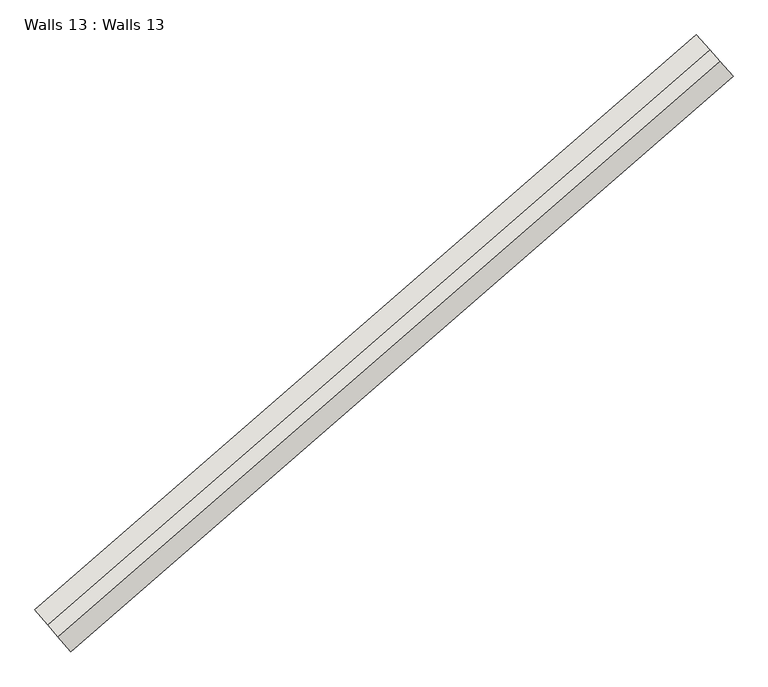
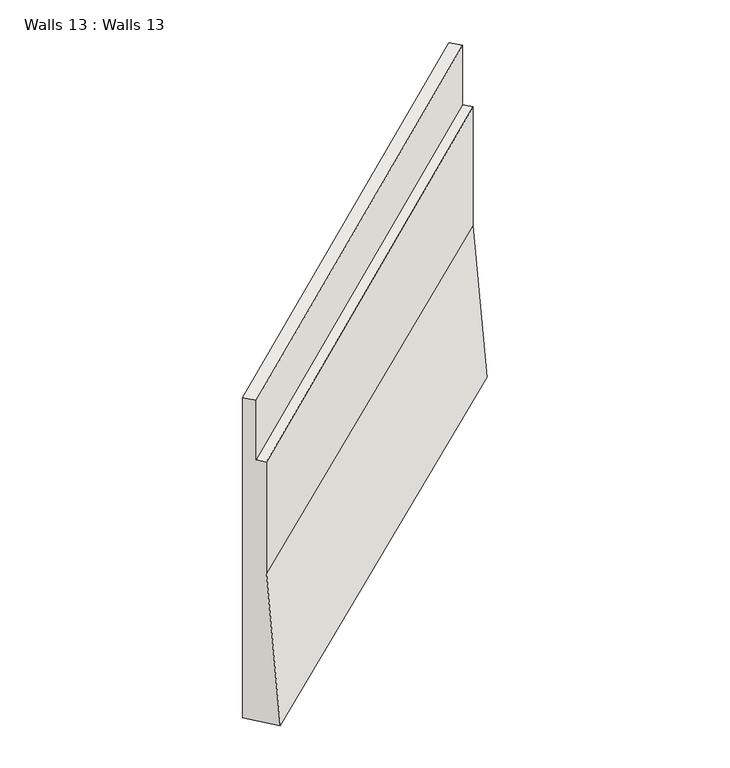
"""IFC4 building model written with IfcOpenShell, lengths in millimetres: wall geometry, Walls 13 : Walls 13."""

from ifc_helpers import new_model, si_unit, frame, origin, place, context, project, spatial, source, transform, mapped, element, save
from ifc_brep_helpers import plane_surface, spline_curve, spline_surface, advanced_brep


def walls_13_walls_13_f2d9147d(model_context):
    return source(origin(), model_context, "Body", "AdvancedBrep", [
        advanced_brep(
        [(-251989.7359779, -411749.6510878, 635200.0), (-252355.3261287, -411339.1918197, 635200.0), (-252355.3261287, -411339.1918197, 640690.0), (-252222.3842557, -411488.4497354, 640690.0), (-252222.3842557, -411488.4497354, 639690.0), (-252122.6778509, -411600.3931722, 639690.0), (-252122.6778509, -411600.3931722, 637700.0), (-258566.4830162, -417464.9275778, 635130.0), (-258695.8495109, -417312.4180898, 637630.0), (-258695.8495109, -417312.4180898, 639500.0), (-258792.8743818, -417198.0359739, 639500.0), (-258792.8743818, -417198.0359739, 640500.0), (-258922.2408764, -417045.526486, 640500.0), (-258922.2408764, -417045.526486, 635130.0)],
        [
            (0, 1),
            (1, 2),
            (2, 3),
            (3, 4),
            (4, 5),
            (5, 6),
            (6, 0),
            (7, 8),
            (8, 9),
            (9, 10),
            (10, 11),
            (11, 12),
            (12, 13),
            (13, 7),
            (13, 1, spline_curve(3, [(-258922.2408764, -417045.526486, 635130.0), (-256710.396439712, -415169.961391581, 635153.333333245), (-254521.211723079, -413267.664757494, 635176.666666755), (-252355.3261287, -411339.1918197, 635200.0)], [4, 4], [0.0, 28.565908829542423])),
            (0, 7, spline_curve(3, [(-251989.7359779, -411749.6510878, 635200.0), (-254158.861927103, -413681.143295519, 635176.666666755), (-256351.324380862, -415586.420842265, 635153.333333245), (-258566.4830162, -417464.9275778, 635130.0)], [4, 4], [0.0, 28.565908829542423])),
            (12, 2, spline_curve(3, [(-258922.2408764, -417045.526486, 640500.0), (-256710.39644053, -415169.961391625, 640563.333333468), (-254521.211723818, -413267.664758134, 640626.666666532), (-252355.3261287, -411339.1918197, 640690.0)], [4, 4], [0.0, 28.54637564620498])),
            (11, 3, spline_curve(3, [(-258792.8743818, -417198.0359739, 640500.0), (-256579.824782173, -415321.401191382, 640563.333333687), (-254389.448161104, -413418.020589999, 640626.666666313), (-252222.3842557, -411488.4497354, 640690.0)], [4, 4], [0.0, 28.55791933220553])),
            (10, 4, spline_curve(3, [(-258792.8743818, -417198.0359739, 639500.0), (-256579.824782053, -415321.401190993, 639563.333333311), (-254389.448161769, -413418.020589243, 639626.666666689), (-252222.3842557, -411488.4497354, 639690.0)], [4, 4], [0.0, 28.565843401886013])),
            (9, 5, spline_curve(3, [(-258695.8495109, -417312.4180898, 639500.0), (-256481.896038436, -415434.981041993, 639563.3333333), (-254290.625489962, -413530.787463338, 639626.6666667), (-252122.6778509, -411600.3931722, 639690.0)], [4, 4], [0.0, 28.571786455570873])),
            (8, 6, spline_curve(3, [(-258695.8495109, -417312.4180898, 637630.0), (-256481.896038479, -415434.981041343, 637653.333333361), (-254290.625489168, -413530.787463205, 637676.666666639), (-252122.6778509, -411600.3931722, 637700.0)], [4, 4], [0.0, 28.5741134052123])),
        ],
        [
            plane_surface(frame((-252198.6446355, -411515.1029346, 638408.5714286), z_axis=(0.7467427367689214, 0.6651129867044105, 0.0), x_axis=(-0.6651129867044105, 0.7467427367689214, 0.0))),
            plane_surface(frame((-258769.7732221, -417225.269811, 638270.0), z_axis=(-0.7625966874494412, -0.6468742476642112, 0.0), x_axis=(-0.6468742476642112, 0.7625966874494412, 0.0))),
            spline_surface(3, 3, [[(-258566.4830162, -417464.9275778, 635130.0), (-256351.324380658, -415586.420841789, 635153.333333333), (-254158.861927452, -413681.143295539, 635176.666666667), (-251989.7359779, -411749.6510878, 635200.0)], [(-258685.068969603, -417325.127213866, 635130.0), (-256471.015067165, -415447.601024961, 635153.333333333), (-254279.645192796, -413543.317116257, 635176.666666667), (-252111.599361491, -411612.831331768, 635200.0)], [(-258803.654922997, -417185.326849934, 635130.0), (-256590.705753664, -415308.781208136, 635153.333333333), (-254400.428458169, -413405.490936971, 635176.666666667), (-252233.462745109, -411476.011575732, 635200.0)], [(-258922.2408764, -417045.526486, 635130.0), (-256710.396440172, -415169.961391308, 635153.333333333), (-254521.211723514, -413267.66475769, 635176.666666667), (-252355.3261287, -411339.1918197, 635200.0)]], [4, 4], [4, 4], [0.0, 1.803856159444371], [0.0, 28.565908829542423]),
            spline_surface(3, 3, [[(-258922.2408764, -417045.526486, 635130.0), (-256710.396440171, -415169.961391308, 635153.333333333), (-254521.211723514, -413267.66475769, 635176.666666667), (-252355.3261287, -411339.1918197, 635200.0)], [(-258922.2408764, -417045.526486, 636920.0), (-256710.396440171, -415169.961391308, 636956.666666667), (-254521.211723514, -413267.66475769, 636993.333333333), (-252355.3261287, -411339.1918197, 637030.0)], [(-258922.2408764, -417045.526486, 638710.0), (-256710.396440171, -415169.961391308, 638760.0), (-254521.211723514, -413267.66475769, 638810.0), (-252355.3261287, -411339.1918197, 638860.0)], [(-258922.2408764, -417045.526486, 640500.0), (-256710.396440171, -415169.961391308, 640563.333333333), (-254521.211723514, -413267.66475769, 640626.666666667), (-252355.3261287, -411339.1918197, 640690.0)]], [4, 4], [4, 4], [0.0, 17.814960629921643], [0.0, 28.54637564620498]),
            spline_surface(3, 3, [[(-258922.2408764, -417045.526486, 640500.0), (-256710.396440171, -415169.961391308, 640563.333333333), (-254521.211723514, -413267.66475769, 640626.666666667), (-252355.3261287, -411339.1918197, 640690.0)], [(-258879.118711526, -417096.362981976, 640500.0), (-256666.872554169, -415220.4413247, 640563.333333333), (-254477.290536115, -413317.783368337, 640626.666666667), (-252311.012171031, -411388.944458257, 640690.0)], [(-258835.996546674, -417147.199477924, 640500.0), (-256623.348668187, -415270.921258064, 640563.333333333), (-254433.369348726, -413367.901979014, 640626.666666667), (-252266.698213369, -411438.697096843, 640690.0)], [(-258792.8743818, -417198.0359739, 640500.0), (-256579.824782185, -415321.401191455, 640563.333333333), (-254389.448161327, -413418.020589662, 640626.666666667), (-252222.3842557, -411488.4497354, 640690.0)]], [4, 4], [4, 4], [0.0, 0.6559476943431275], [0.0, 28.55791933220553]),
            spline_surface(3, 3, [[(-258792.8743818, -417198.0359739, 640500.0), (-256579.824782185, -415321.401191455, 640563.333333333), (-254389.448161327, -413418.020589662, 640626.666666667), (-252222.3842557, -411488.4497354, 640690.0)], [(-258792.8743818, -417198.0359739, 640166.666666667), (-256579.824782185, -415321.401191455, 640230.0), (-254389.448161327, -413418.020589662, 640293.333333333), (-252222.3842557, -411488.4497354, 640356.666666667)], [(-258792.8743818, -417198.0359739, 639833.333333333), (-256579.824782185, -415321.401191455, 639896.666666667), (-254389.448161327, -413418.020589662, 639960.0), (-252222.3842557, -411488.4497354, 640023.333333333)], [(-258792.8743818, -417198.0359739, 639500.0), (-256579.824782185, -415321.401191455, 639563.333333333), (-254389.448161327, -413418.020589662, 639626.666666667), (-252222.3842557, -411488.4497354, 639690.0)]], [4, 4], [4, 4], [0.0, 3.2808398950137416], [0.0, 28.565843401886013]),
            spline_surface(3, 3, [[(-258792.8743818, -417198.0359739, 639500.0), (-256579.824782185, -415321.401191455, 639563.333333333), (-254389.448161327, -413418.020589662, 639626.666666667), (-252222.3842557, -411488.4497354, 639690.0)], [(-258760.532758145, -417236.163345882, 639500.0), (-256547.181867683, -415359.261141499, 639563.333333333), (-254356.507270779, -413455.609547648, 639626.666666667), (-252189.148787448, -411525.764214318, 639690.0)], [(-258728.191134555, -417274.290717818, 639500.0), (-256514.538953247, -415397.121091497, 639563.333333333), (-254323.566380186, -413493.198505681, 639626.666666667), (-252155.913319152, -411563.078693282, 639690.0)], [(-258695.8495109, -417312.4180898, 639500.0), (-256481.896038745, -415434.981041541, 639563.333333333), (-254290.625489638, -413530.787463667, 639626.666666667), (-252122.6778509, -411600.3931722, 639690.0)]], [4, 4], [4, 4], [0.0, 0.4919607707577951], [0.0, 28.571786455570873]),
            spline_surface(3, 3, [[(-258695.8495109, -417312.4180898, 639500.0), (-256481.896038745, -415434.981041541, 639563.333333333), (-254290.625489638, -413530.787463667, 639626.666666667), (-252122.6778509, -411600.3931722, 639690.0)], [(-258695.8495109, -417312.4180898, 638876.666666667), (-256481.896038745, -415434.981041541, 638926.666666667), (-254290.625489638, -413530.787463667, 638976.666666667), (-252122.6778509, -411600.3931722, 639026.666666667)], [(-258695.8495109, -417312.4180898, 638253.333333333), (-256481.896038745, -415434.981041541, 638290.0), (-254290.625489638, -413530.787463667, 638326.666666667), (-252122.6778509, -411600.3931722, 638363.333333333)], [(-258695.8495109, -417312.4180898, 637630.0), (-256481.896038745, -415434.981041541, 637653.333333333), (-254290.625489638, -413530.787463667, 637676.666666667), (-252122.6778509, -411600.3931722, 637700.0)]], [4, 4], [4, 4], [0.0, 6.3320209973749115], [0.0, 28.5741134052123]),
            spline_surface(3, 3, [[(-258695.8495109, -417312.4180898, 637630.0), (-256481.896038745, -415434.981041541, 637653.333333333), (-254290.625489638, -413530.787463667, 637676.666666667), (-252122.6778509, -411600.3931722, 637700.0)], [(-258652.727346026, -417363.254585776, 636796.666666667), (-256438.372152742, -415485.460974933, 636820.0), (-254246.70430224, -413580.906074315, 636843.333333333), (-252078.363893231, -411650.145810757, 636866.666666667)], [(-258609.605181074, -417414.091081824, 635963.333333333), (-256394.848266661, -415535.940908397, 635986.666666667), (-254202.78311485, -413631.024684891, 636010.0), (-252034.049935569, -411699.898449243, 636033.333333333)], [(-258566.4830162, -417464.9275778, 635130.0), (-256351.324380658, -415586.420841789, 635153.333333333), (-254158.861927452, -413681.143295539, 635176.666666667), (-251989.7359779, -411749.6510878, 635200.0)]], [4, 4], [4, 4], [0.0, 8.228287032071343], [0.0, 28.57977881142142]),
        ],
        [
            (0, [[1, 2, 3, 4, 5, 6, 7]]),
            (1, [[8, 9, 10, 11, 12, 13, 14]]),
            (2, [[-14, 15, -1, 16]]),
            (3, [[-13, 17, -2, -15]]),
            (4, [[-12, 18, -3, -17]]),
            (5, [[-11, 19, -4, -18]]),
            (6, [[-10, 20, -5, -19]]),
            (7, [[-9, 21, -6, -20]]),
            (8, [[-8, -16, -7, -21]]),
        ],
    ),
    ])


if __name__ == "__main__":
    model = new_model("IFC4")
    model_context = context("Model", 3, world=origin())
    ifc_project = project(units=[si_unit("LENGTHUNIT", "METRE", prefix="MILLI")], contexts=[model_context])
    site = spatial("IfcSite", under=ifc_project)
    building = spatial("IfcBuilding", under=site)
    placement = place(None, origin())
    walls_13_walls_13_shape = walls_13_walls_13_f2d9147d(model_context)
    element("IfcWall", 1, ObjectType="Walls 13 : Walls 13", at=placement, inside=building, context=model_context, shape_type="MappedRepresentation", body=[
        mapped(walls_13_walls_13_shape, transform((0.0, 0.0, 0.0), x_axis=(1.0, 0.0, 0.0), y_axis=(0.0, 1.0, 0.0), z_axis=(0.0, 0.0, 1.0))),
    ])
    save(model, "model.ifc")
